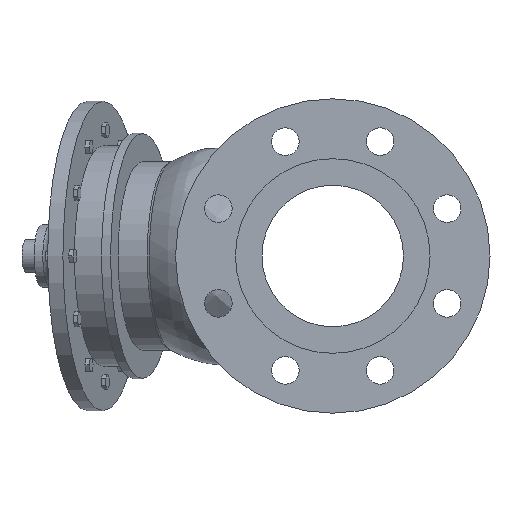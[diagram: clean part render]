
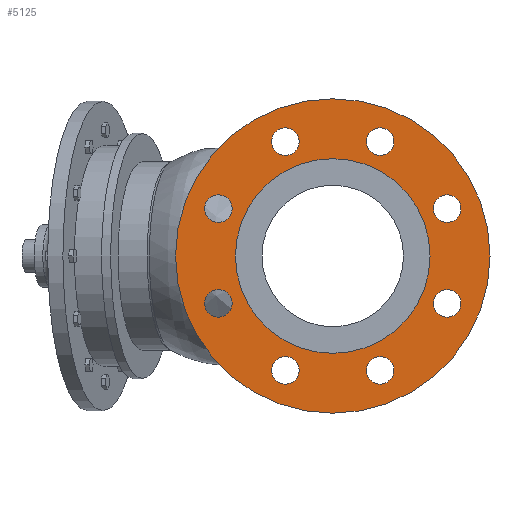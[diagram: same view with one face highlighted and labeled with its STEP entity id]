
A CAD part, left-side view. The second image highlights one B-rep face of the part: STEP entity #5125.
In plain terms, the highlighted planar face has unit normal (-1, 0, 0).
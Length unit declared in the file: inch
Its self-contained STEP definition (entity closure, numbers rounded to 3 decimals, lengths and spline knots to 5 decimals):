
#250=PLANE('',#5494);
#297=FACE_BOUND('',#944,.T.);
#298=FACE_BOUND('',#945,.T.);
#299=FACE_BOUND('',#946,.T.);
#300=FACE_BOUND('',#947,.T.);
#301=FACE_BOUND('',#948,.T.);
#302=FACE_BOUND('',#949,.T.);
#303=FACE_BOUND('',#950,.T.);
#304=FACE_BOUND('',#951,.T.);
#305=FACE_BOUND('',#952,.T.);
#642=FACE_OUTER_BOUND('',#943,.T.);
#943=EDGE_LOOP('',(#4505,#4506));
#944=EDGE_LOOP('',(#4507));
#945=EDGE_LOOP('',(#4508));
#946=EDGE_LOOP('',(#4509));
#947=EDGE_LOOP('',(#4510));
#948=EDGE_LOOP('',(#4511));
#949=EDGE_LOOP('',(#4512));
#950=EDGE_LOOP('',(#4513));
#951=EDGE_LOOP('',(#4514));
#952=EDGE_LOOP('',(#4515,#4516));
#2008=CIRCLE('',#5154,0.4375);
#2010=CIRCLE('',#5157,0.4375);
#2012=CIRCLE('',#5160,0.4375);
#2014=CIRCLE('',#5163,0.4375);
#2016=CIRCLE('',#5166,0.4375);
#2018=CIRCLE('',#5169,0.4375);
#2020=CIRCLE('',#5172,0.4375);
#2022=CIRCLE('',#5175,0.4375);
#2105=CIRCLE('',#5492,3.095);
#2106=CIRCLE('',#5493,3.095);
#2107=CIRCLE('',#5495,5.);
#2108=CIRCLE('',#5496,5.);
#2119=VERTEX_POINT('',#6789);
#2121=VERTEX_POINT('',#6795);
#2123=VERTEX_POINT('',#6801);
#2125=VERTEX_POINT('',#6807);
#2127=VERTEX_POINT('',#6813);
#2129=VERTEX_POINT('',#6819);
#2131=VERTEX_POINT('',#6825);
#2133=VERTEX_POINT('',#6831);
#2560=VERTEX_POINT('',#9255);
#2561=VERTEX_POINT('',#9256);
#2562=VERTEX_POINT('',#9261);
#2563=VERTEX_POINT('',#9262);
#2574=EDGE_CURVE('',#2119,#2119,#2008,.T.);
#2577=EDGE_CURVE('',#2121,#2121,#2010,.T.);
#2580=EDGE_CURVE('',#2123,#2123,#2012,.T.);
#2583=EDGE_CURVE('',#2125,#2125,#2014,.T.);
#2586=EDGE_CURVE('',#2127,#2127,#2016,.T.);
#2589=EDGE_CURVE('',#2129,#2129,#2018,.T.);
#2592=EDGE_CURVE('',#2131,#2131,#2020,.T.);
#2595=EDGE_CURVE('',#2133,#2133,#2022,.T.);
#3223=EDGE_CURVE('',#2560,#2561,#2105,.T.);
#3224=EDGE_CURVE('',#2561,#2560,#2106,.T.);
#3226=EDGE_CURVE('',#2562,#2563,#2107,.T.);
#3227=EDGE_CURVE('',#2563,#2562,#2108,.T.);
#4505=ORIENTED_EDGE('',*,*,#3226,.F.);
#4506=ORIENTED_EDGE('',*,*,#3227,.F.);
#4507=ORIENTED_EDGE('',*,*,#2574,.T.);
#4508=ORIENTED_EDGE('',*,*,#2577,.T.);
#4509=ORIENTED_EDGE('',*,*,#2580,.T.);
#4510=ORIENTED_EDGE('',*,*,#2583,.T.);
#4511=ORIENTED_EDGE('',*,*,#2586,.T.);
#4512=ORIENTED_EDGE('',*,*,#2589,.T.);
#4513=ORIENTED_EDGE('',*,*,#2592,.T.);
#4514=ORIENTED_EDGE('',*,*,#2595,.T.);
#4515=ORIENTED_EDGE('',*,*,#3223,.T.);
#4516=ORIENTED_EDGE('',*,*,#3224,.T.);
#5125=ADVANCED_FACE('',(#642,#297,#298,#299,#300,#301,#302,#303,#304,#305),
#250,.T.);
#5154=AXIS2_PLACEMENT_3D('',#6790,#5531,#5532);
#5157=AXIS2_PLACEMENT_3D('',#6796,#5538,#5539);
#5160=AXIS2_PLACEMENT_3D('',#6802,#5545,#5546);
#5163=AXIS2_PLACEMENT_3D('',#6808,#5552,#5553);
#5166=AXIS2_PLACEMENT_3D('',#6814,#5559,#5560);
#5169=AXIS2_PLACEMENT_3D('',#6820,#5566,#5567);
#5172=AXIS2_PLACEMENT_3D('',#6826,#5573,#5574);
#5175=AXIS2_PLACEMENT_3D('',#6832,#5580,#5581);
#5492=AXIS2_PLACEMENT_3D('',#9257,#6713,#6714);
#5493=AXIS2_PLACEMENT_3D('',#9258,#6715,#6716);
#5494=AXIS2_PLACEMENT_3D('',#9260,#6718,#6719);
#5495=AXIS2_PLACEMENT_3D('',#9263,#6720,#6721);
#5496=AXIS2_PLACEMENT_3D('',#9264,#6722,#6723);
#5531=DIRECTION('center_axis',(1.,0.,0.));
#5532=DIRECTION('ref_axis',(0.,0.707,0.707));
#5538=DIRECTION('center_axis',(1.,0.,0.));
#5539=DIRECTION('ref_axis',(0.,1.,0.));
#5545=DIRECTION('center_axis',(1.,0.,0.));
#5546=DIRECTION('ref_axis',(0.,0.707,-0.707));
#5552=DIRECTION('center_axis',(1.,0.,0.));
#5553=DIRECTION('ref_axis',(0.,0.,-1.));
#5559=DIRECTION('center_axis',(1.,0.,0.));
#5560=DIRECTION('ref_axis',(0.,-0.707,-0.707));
#5566=DIRECTION('center_axis',(1.,0.,0.));
#5567=DIRECTION('ref_axis',(0.,-1.,0.));
#5573=DIRECTION('center_axis',(1.,0.,0.));
#5574=DIRECTION('ref_axis',(0.,-0.707,0.707));
#5580=DIRECTION('center_axis',(1.,0.,0.));
#5581=DIRECTION('ref_axis',(0.,0.,1.));
#6713=DIRECTION('center_axis',(1.,0.,0.));
#6714=DIRECTION('ref_axis',(0.,0.,-1.));
#6715=DIRECTION('center_axis',(1.,0.,0.));
#6716=DIRECTION('ref_axis',(0.,0.,-1.));
#6718=DIRECTION('center_axis',(-1.,0.,0.));
#6719=DIRECTION('ref_axis',(0.,0.,1.));
#6720=DIRECTION('center_axis',(1.,0.,0.));
#6721=DIRECTION('ref_axis',(0.,0.,-1.));
#6722=DIRECTION('center_axis',(1.,0.,0.));
#6723=DIRECTION('ref_axis',(0.,0.,-1.));
#6789=CARTESIAN_POINT('',(-6.535,1.19746,-3.94713));
#6790=CARTESIAN_POINT('Origin',(-6.535,1.50682,-3.63778));
#6795=CARTESIAN_POINT('',(-6.535,-1.94432,-3.63778));
#6796=CARTESIAN_POINT('Origin',(-6.535,-1.50682,-3.63778));
#6801=CARTESIAN_POINT('',(-6.535,-3.94713,-1.19746));
#6802=CARTESIAN_POINT('Origin',(-6.535,-3.63778,-1.50682));
#6807=CARTESIAN_POINT('',(-6.535,-3.63778,1.94432));
#6808=CARTESIAN_POINT('Origin',(-6.535,-3.63778,1.50682));
#6813=CARTESIAN_POINT('',(-6.535,-1.19746,3.94713));
#6814=CARTESIAN_POINT('Origin',(-6.535,-1.50682,3.63778));
#6819=CARTESIAN_POINT('',(-6.535,1.94432,3.63778));
#6820=CARTESIAN_POINT('Origin',(-6.535,1.50682,3.63778));
#6825=CARTESIAN_POINT('',(-6.535,3.94713,1.19746));
#6826=CARTESIAN_POINT('Origin',(-6.535,3.63778,1.50682));
#6831=CARTESIAN_POINT('',(-6.535,3.63778,-1.94432));
#6832=CARTESIAN_POINT('Origin',(-6.535,3.63778,-1.50682));
#9255=CARTESIAN_POINT('',(-6.535,3.095,0.));
#9256=CARTESIAN_POINT('',(-6.535,-3.095,0.));
#9257=CARTESIAN_POINT('Origin',(-6.535,0.,0.));
#9258=CARTESIAN_POINT('Origin',(-6.535,0.,0.));
#9260=CARTESIAN_POINT('Origin',(-6.535,5.,0.));
#9261=CARTESIAN_POINT('',(-6.535,5.,0.));
#9262=CARTESIAN_POINT('',(-6.535,-5.,0.));
#9263=CARTESIAN_POINT('Origin',(-6.535,0.,0.));
#9264=CARTESIAN_POINT('Origin',(-6.535,0.,0.));
